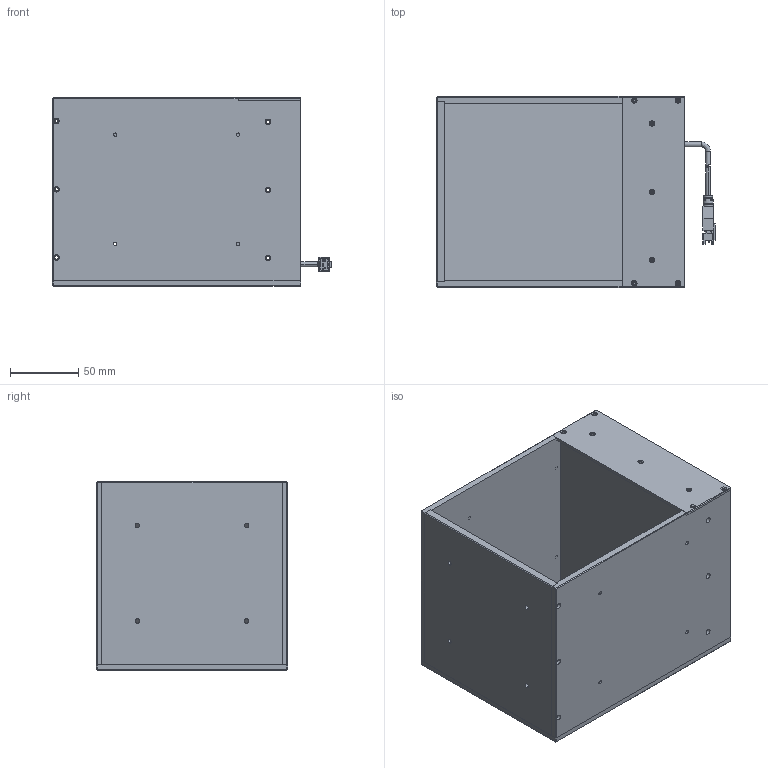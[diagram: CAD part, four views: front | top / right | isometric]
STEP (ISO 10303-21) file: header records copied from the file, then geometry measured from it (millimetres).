
FILE_DESCRIPTION (( 'STEP AP203' ), '1' );
FILE_NAME ('CST-COS130-SY-T28-蚾饜极.STEP', '2019-12-19T02:02:30', ( '' ), ( '' ), 'SwSTEP 2.0', 'SolidWorks 2014', '' );
FILE_SCHEMA (( 'CONFIG_CONTROL_DESIGN' ));
Length unit declared in the file: millimetre
Products named in the file (1): CST-COS130-SY-T28-蚾饜极
Bounding box: 204.55 x 140 x 138 mm (x, y, z)
Surface area: 296088.3 mm2 (no closed solid volume)
Topology: 0 solids, 14 shells, 410 faces, 1337 edges, 926 vertices
Faces by surface type: plane 234, cylinder 148, cone 16, bspline 10, torus 2
Entity records: 15121 total; most frequent: CARTESIAN_POINT 3275, DIRECTION 2516, ORIENTED_EDGE 2132, EDGE_CURVE 1335, VERTEX_POINT 926, VECTOR 858, LINE 858, AXIS2_PLACEMENT_3D 829
